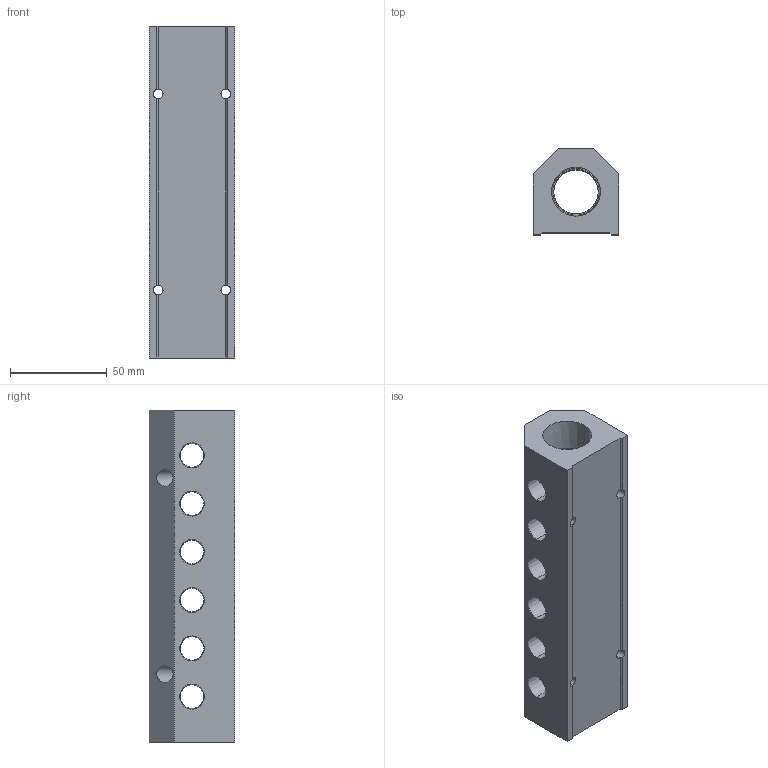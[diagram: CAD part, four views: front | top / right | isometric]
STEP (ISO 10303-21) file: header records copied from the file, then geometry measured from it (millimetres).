
FILE_DESCRIPTION (( 'STEP AP214' ), '1' );
FILE_NAME ('ALM6ACE-N4N12-172B.step', '2022-02-06T14:10:32', ( '' ), ( '' ), 'SwSTEP 2.0', 'SolidWorks 2020', '' );
FILE_SCHEMA (( 'AUTOMOTIVE_DESIGN' ));
Length unit declared in the file: millimetre
Products named in the file (1): ALM6ACE-N4N12-172B
Bounding box: 44.5 x 44.5 x 172 mm (x, y, z)
Volume: 203155.9 mm3; surface area: 49298 mm2
Topology: 1 solids, 1 shells, 332 faces, 904 edges, 592 vertices
Faces by surface type: plane 220, cone 46, bspline 44, cylinder 22
Entity records: 15346 total; most frequent: CARTESIAN_POINT 6789, ORIENTED_EDGE 1808, DIRECTION 1402, EDGE_CURVE 904, VECTOR 656, LINE 656, VERTEX_POINT 592, EDGE_LOOP 396
